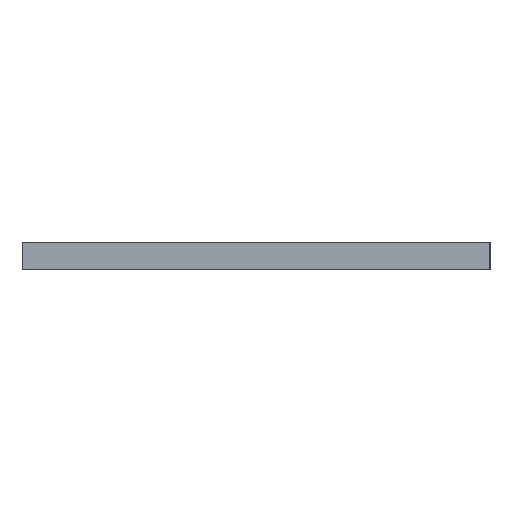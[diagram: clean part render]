
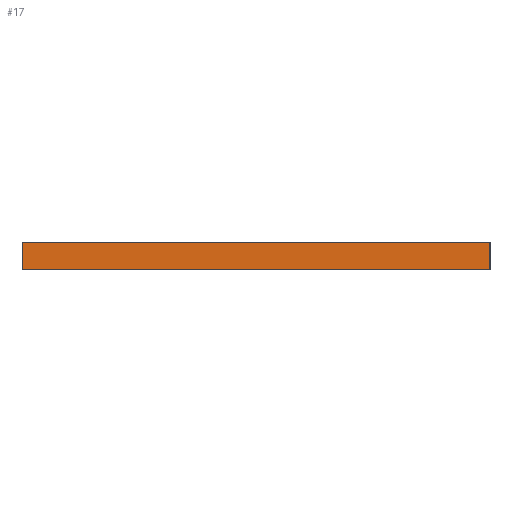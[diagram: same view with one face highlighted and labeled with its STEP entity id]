
A CAD part, left-side view. The second image highlights one B-rep face of the part: STEP entity #17.
In plain terms, the highlighted planar face has unit normal (-1, 0, 0).
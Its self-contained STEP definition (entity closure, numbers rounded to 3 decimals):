
#17 = ADVANCED_FACE('',(#18),#32,.F.);
#18 = FACE_BOUND('',#19,.F.);
#19 = EDGE_LOOP('',(#20,#55,#83,#111));
#20 = ORIENTED_EDGE('',*,*,#21,.T.);
#21 = EDGE_CURVE('',#22,#24,#26,.T.);
#22 = VERTEX_POINT('',#23);
#23 = CARTESIAN_POINT('',(-2.2,32.2,-3.6));
#24 = VERTEX_POINT('',#25);
#25 = CARTESIAN_POINT('',(-2.2,32.2,-1.6));
#26 = SURFACE_CURVE('',#27,(#31,#43),.PCURVE_S1.);
#27 = LINE('',#28,#29);
#28 = CARTESIAN_POINT('',(-2.2,32.2,-3.6));
#29 = VECTOR('',#30,1.);
#30 = DIRECTION('',(0.,0.,1.));
#31 = PCURVE('',#32,#37);
#32 = PLANE('',#33);
#33 = AXIS2_PLACEMENT_3D('',#34,#35,#36);
#34 = CARTESIAN_POINT('',(-2.2,32.2,-3.6));
#35 = DIRECTION('',(1.,0.,-0.));
#36 = DIRECTION('',(0.,-1.,0.));
#37 = DEFINITIONAL_REPRESENTATION('',(#38),#42);
#38 = LINE('',#39,#40);
#39 = CARTESIAN_POINT('',(0.,0.));
#40 = VECTOR('',#41,1.);
#41 = DIRECTION('',(0.,-1.));
#42 = ( GEOMETRIC_REPRESENTATION_CONTEXT(2) 
PARAMETRIC_REPRESENTATION_CONTEXT() REPRESENTATION_CONTEXT('2D SPACE',''
  ) );
#43 = PCURVE('',#44,#49);
#44 = PLANE('',#45);
#45 = AXIS2_PLACEMENT_3D('',#46,#47,#48);
#46 = CARTESIAN_POINT('',(42.2,32.2,-3.6));
#47 = DIRECTION('',(0.,-1.,0.));
#48 = DIRECTION('',(-1.,0.,0.));
#49 = DEFINITIONAL_REPRESENTATION('',(#50),#54);
#50 = LINE('',#51,#52);
#51 = CARTESIAN_POINT('',(44.4,0.));
#52 = VECTOR('',#53,1.);
#53 = DIRECTION('',(0.,-1.));
#54 = ( GEOMETRIC_REPRESENTATION_CONTEXT(2) 
PARAMETRIC_REPRESENTATION_CONTEXT() REPRESENTATION_CONTEXT('2D SPACE',''
  ) );
#55 = ORIENTED_EDGE('',*,*,#56,.T.);
#56 = EDGE_CURVE('',#24,#57,#59,.T.);
#57 = VERTEX_POINT('',#58);
#58 = CARTESIAN_POINT('',(-2.2,-2.2,-1.6));
#59 = SURFACE_CURVE('',#60,(#64,#71),.PCURVE_S1.);
#60 = LINE('',#61,#62);
#61 = CARTESIAN_POINT('',(-2.2,32.2,-1.6));
#62 = VECTOR('',#63,1.);
#63 = DIRECTION('',(0.,-1.,0.));
#64 = PCURVE('',#32,#65);
#65 = DEFINITIONAL_REPRESENTATION('',(#66),#70);
#66 = LINE('',#67,#68);
#67 = CARTESIAN_POINT('',(0.,-2.));
#68 = VECTOR('',#69,1.);
#69 = DIRECTION('',(1.,0.));
#70 = ( GEOMETRIC_REPRESENTATION_CONTEXT(2) 
PARAMETRIC_REPRESENTATION_CONTEXT() REPRESENTATION_CONTEXT('2D SPACE',''
  ) );
#71 = PCURVE('',#72,#77);
#72 = PLANE('',#73);
#73 = AXIS2_PLACEMENT_3D('',#74,#75,#76);
#74 = CARTESIAN_POINT('',(20.,15.,-1.6));
#75 = DIRECTION('',(0.,0.,1.));
#76 = DIRECTION('',(1.,0.,-0.));
#77 = DEFINITIONAL_REPRESENTATION('',(#78),#82);
#78 = LINE('',#79,#80);
#79 = CARTESIAN_POINT('',(-22.2,17.2));
#80 = VECTOR('',#81,1.);
#81 = DIRECTION('',(0.,-1.));
#82 = ( GEOMETRIC_REPRESENTATION_CONTEXT(2) 
PARAMETRIC_REPRESENTATION_CONTEXT() REPRESENTATION_CONTEXT('2D SPACE',''
  ) );
#83 = ORIENTED_EDGE('',*,*,#84,.F.);
#84 = EDGE_CURVE('',#85,#57,#87,.T.);
#85 = VERTEX_POINT('',#86);
#86 = CARTESIAN_POINT('',(-2.2,-2.2,-3.6));
#87 = SURFACE_CURVE('',#88,(#92,#99),.PCURVE_S1.);
#88 = LINE('',#89,#90);
#89 = CARTESIAN_POINT('',(-2.2,-2.2,-3.6));
#90 = VECTOR('',#91,1.);
#91 = DIRECTION('',(0.,0.,1.));
#92 = PCURVE('',#32,#93);
#93 = DEFINITIONAL_REPRESENTATION('',(#94),#98);
#94 = LINE('',#95,#96);
#95 = CARTESIAN_POINT('',(34.4,0.));
#96 = VECTOR('',#97,1.);
#97 = DIRECTION('',(0.,-1.));
#98 = ( GEOMETRIC_REPRESENTATION_CONTEXT(2) 
PARAMETRIC_REPRESENTATION_CONTEXT() REPRESENTATION_CONTEXT('2D SPACE',''
  ) );
#99 = PCURVE('',#100,#105);
#100 = PLANE('',#101);
#101 = AXIS2_PLACEMENT_3D('',#102,#103,#104);
#102 = CARTESIAN_POINT('',(-2.2,-2.2,-3.6));
#103 = DIRECTION('',(0.,1.,0.));
#104 = DIRECTION('',(1.,0.,0.));
#105 = DEFINITIONAL_REPRESENTATION('',(#106),#110);
#106 = LINE('',#107,#108);
#107 = CARTESIAN_POINT('',(0.,0.));
#108 = VECTOR('',#109,1.);
#109 = DIRECTION('',(0.,-1.));
#110 = ( GEOMETRIC_REPRESENTATION_CONTEXT(2) 
PARAMETRIC_REPRESENTATION_CONTEXT() REPRESENTATION_CONTEXT('2D SPACE',''
  ) );
#111 = ORIENTED_EDGE('',*,*,#112,.F.);
#112 = EDGE_CURVE('',#22,#85,#113,.T.);
#113 = SURFACE_CURVE('',#114,(#118,#125),.PCURVE_S1.);
#114 = LINE('',#115,#116);
#115 = CARTESIAN_POINT('',(-2.2,32.2,-3.6));
#116 = VECTOR('',#117,1.);
#117 = DIRECTION('',(0.,-1.,0.));
#118 = PCURVE('',#32,#119);
#119 = DEFINITIONAL_REPRESENTATION('',(#120),#124);
#120 = LINE('',#121,#122);
#121 = CARTESIAN_POINT('',(0.,0.));
#122 = VECTOR('',#123,1.);
#123 = DIRECTION('',(1.,0.));
#124 = ( GEOMETRIC_REPRESENTATION_CONTEXT(2) 
PARAMETRIC_REPRESENTATION_CONTEXT() REPRESENTATION_CONTEXT('2D SPACE',''
  ) );
#125 = PCURVE('',#126,#131);
#126 = PLANE('',#127);
#127 = AXIS2_PLACEMENT_3D('',#128,#129,#130);
#128 = CARTESIAN_POINT('',(20.,15.,-3.6));
#129 = DIRECTION('',(0.,0.,1.));
#130 = DIRECTION('',(1.,0.,-0.));
#131 = DEFINITIONAL_REPRESENTATION('',(#132),#136);
#132 = LINE('',#133,#134);
#133 = CARTESIAN_POINT('',(-22.2,17.2));
#134 = VECTOR('',#135,1.);
#135 = DIRECTION('',(0.,-1.));
#136 = ( GEOMETRIC_REPRESENTATION_CONTEXT(2) 
PARAMETRIC_REPRESENTATION_CONTEXT() REPRESENTATION_CONTEXT('2D SPACE',''
  ) );
